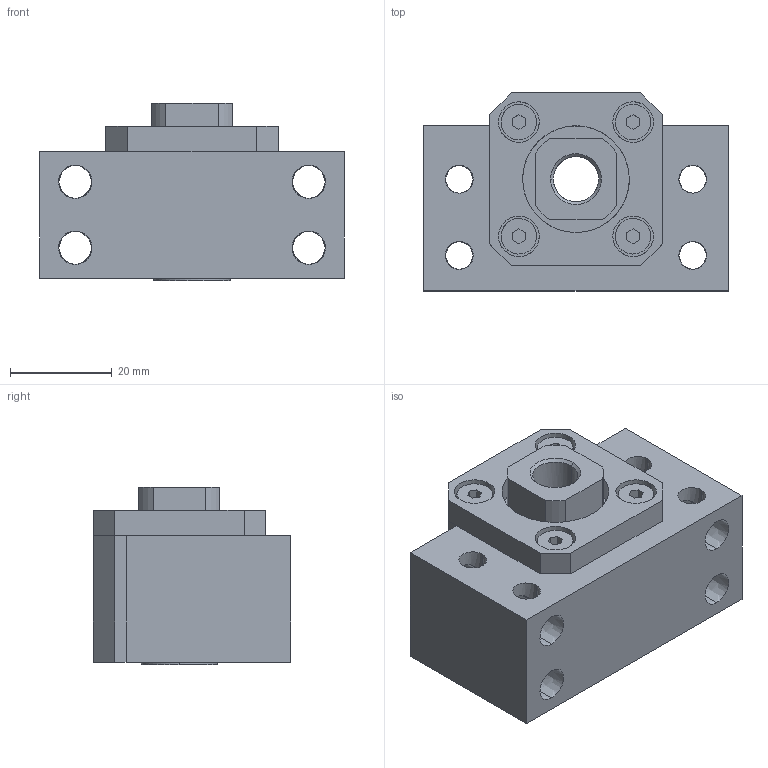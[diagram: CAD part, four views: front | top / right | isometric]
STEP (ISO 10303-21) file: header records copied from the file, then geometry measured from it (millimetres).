
FILE_DESCRIPTION( ('This file contains a STEP AP42 implementation' ,'as created by ZW3D STEP Interface translator.') ,'2;1' );
FILE_NAME( '82AAB486-DF34-39D8-1F1A-B345EFB4B425.stp' ,'18 315.165321', (''), ('ZWCAD Software Co.'), 'Version 1.0', 'ZW3D to STEP translator', '' );
FILE_SCHEMA( ('CONFIG_CONTROL_DESIGN') );
Length unit declared in the file: millimetre
Products named in the file (10): 0; FSFBK-10; _schr_bk_64200110; _kl_flansch_bk_64200110; _dicht_ruecks_bk_64200110; _gehaeuse_bk_64200110; _lager_bk_64200110; _flanschgehaeuse_bk_64200110; _buchse_bk_64200110; _dicht_fls_bk_64200110
Assembly tree (13 placements, depth 2):
  0
  FSFBK-10
    _schr_bk_64200110  x4
    _kl_flansch_bk_64200110
    _dicht_ruecks_bk_64200110
    _gehaeuse_bk_64200110
    _lager_bk_64200110  x2
    _flanschgehaeuse_bk_64200110
    _buchse_bk_64200110  x2
    _dicht_fls_bk_64200110
Bounding box: 60 x 39 x 35 mm (x, y, z)
Volume: 50774.8 mm3; surface area: 26203.7 mm2
Topology: 13 solids, 13 shells, 244 faces, 612 edges, 402 vertices
Faces by surface type: bspline 244
Entity records: 8666 total; most frequent: CARTESIAN_POINT 5379, ORIENTED_EDGE 972, EDGE_CURVE 486, VERTEX_POINT 320, B_SPLINE_CURVE_WITH_KNOTS 286, EDGE_LOOP 240, FACE_OUTER_BOUND 184, ADVANCED_FACE 184
